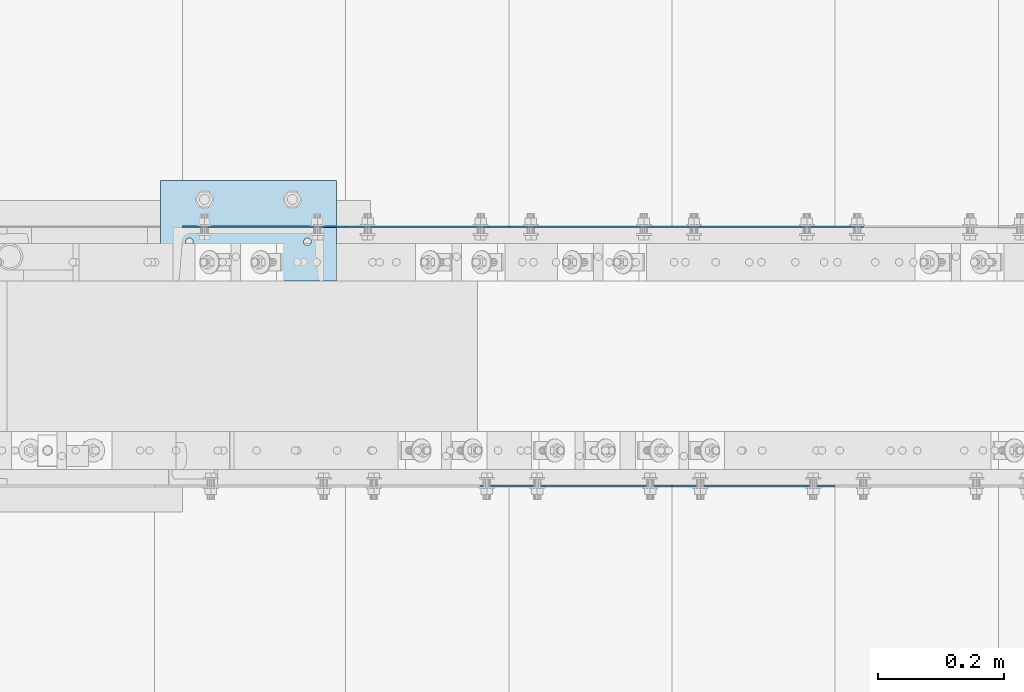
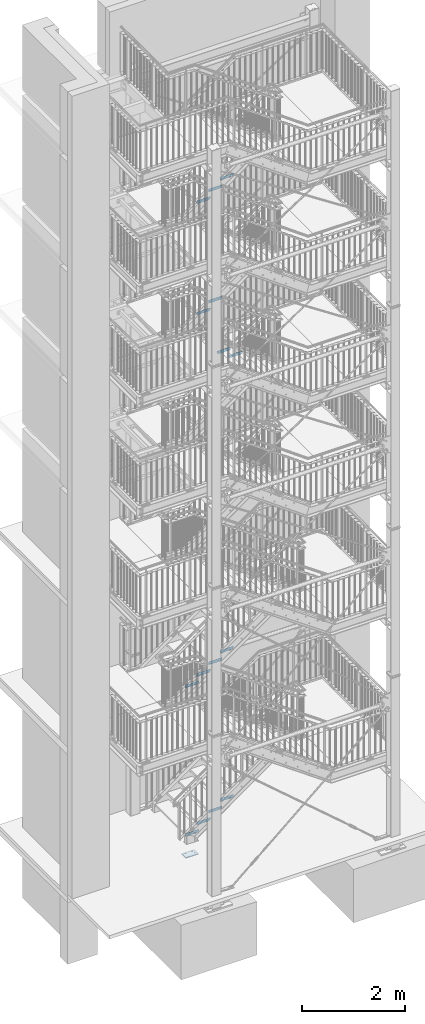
# One storey, part 173 of 831: 16 plates, 34 openings.
"""IFC2X3 building model written with IfcOpenShell, lengths in millimetres."""

from ifc_helpers import new_model, entity, si_unit, converted_unit, point, frame, frame_2d, origin, origin_with_axes, origin_2d_with_axis, place, context, project, spatial, polyline, circle_curve, line_curve, trimmed, segment, composite_curve, circle, outline, extrude, material, layer, layer_set, element, save


model = new_model("IFC2X3")

# Units and contexts
model_context = context("Model", 3, precision=1e-09, world=origin_with_axes())
ifc_project = project(units=[si_unit("LENGTHUNIT", "METRE", prefix="MILLI"), si_unit("AREAUNIT", "SQUARE_METRE"), si_unit("VOLUMEUNIT", "CUBIC_METRE"), converted_unit("PLANEANGLEUNIT", "DEGREE", entity("IfcPlaneAngleMeasure", 0.01745329), si_unit("PLANEANGLEUNIT", "RADIAN"), dimensions=[0, 0, 0, 0, 0, 0, 0])], contexts=[model_context])

# Site, building, storey
site_placement = place(None, origin_with_axes())
site = spatial("IfcSite", under=ifc_project, at=site_placement, Name="Site", CompositionType="ELEMENT")
building_placement = place(site_placement, origin_with_axes())
building = spatial("IfcBuilding", under=site, at=building_placement, Name="Struktur 1", CompositionType="ELEMENT")
storey_placement = place(building_placement, origin_with_axes())
storey = spatial("IfcBuildingStorey", under=building, at=storey_placement, Name="Default Storey", CompositionType="ELEMENT", Elevation=0.0)

# Plate, openings
ifc_material = material(Name="S235JR")
ifc_layer_1 = layer(ifc_material, 3.0)
ifc_layer_set_1 = layer_set([ifc_layer_1], Name="S235JR")
plate_1_placement = place(None, frame((5496.713402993, 6149.736971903, 12807.2142859), z_axis=(0.0, -1.0, 0.0), x_axis=(0.0, 0.0, -1.0)))
plate_1 = element("IfcPlate", 1, at=plate_1_placement, inside=storey, material=ifc_layer_set_1, Name="Grate_Step#3", ObjectType="Grate_Step#3", context=model_context, shape_type="SweptSolid", body=[
    extrude(outline(polyline([(0.0, 0.0), (70.0, 0.0), (70.0, 275.0), (40.0, 305.0), (0.0, 305.0), (0.0, 0.0)])), origin_with_axes(), (0.0, 0.0, 1.0), 3.0),
])
opening_1_placement = place(plate_1_placement, frame((55.0, 215.0, -0.5), z_axis=(0.0, 0.0, 1.0), x_axis=(0.0, 1.0, 0.0)))
element("IfcOpeningElement", 2, at=opening_1_placement, cuts=plate_1, ObjectType="Opening", context=model_context, shape_type="SweptSolid", body=[
    extrude(outline(composite_curve([segment(trimmed(line_curve((-9.5, -7.001), (1.0, 0.0), 19.0), [point((-9.5, -7.001))], [point((9.5, -7.001))], True, "CARTESIAN"), True, "CONTINUOUS"), segment(trimmed(circle_curve(frame_2d((9.5, 0.0), x_axis=(1.0, 0.0)), 7.001), [point((9.5, -7.001))], [point((9.5, 7.001))], True, "CARTESIAN"), True, "CONTINUOUS"), segment(trimmed(line_curve((9.5, 7.001), (-1.0, 0.0), 19.0), [point((9.5, 7.001))], [point((-9.5, 7.001))], True, "CARTESIAN"), True, "CONTINUOUS"), segment(trimmed(circle_curve(frame_2d((-9.5, 0.0), x_axis=(1.0, 0.0)), 7.001), [point((-9.5, 7.001))], [point((-9.5, -7.001))], True, "CARTESIAN"), True, "CONTINUOUS")], self_intersect=False)), origin(), (0.0, 0.0, 1.0), 4.0),
])
opening_2_placement = place(plate_1_placement, frame((55.0, 35.0, -0.5), z_axis=(0.0, 0.0, 1.0), x_axis=(0.0, 1.0, 0.0)))
element("IfcOpeningElement", 3, at=opening_2_placement, cuts=plate_1, ObjectType="Opening", context=model_context, shape_type="SweptSolid", body=[
    extrude(circle(Radius=7.001, at=origin_2d_with_axis()), origin(), (0.0, 0.0, 1.0), 4.0),
])

plate_2_placement = place(None, frame((5756.713402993, 6149.736971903, 12995.4285716), z_axis=(0.0, -1.0, 0.0), x_axis=(0.0, 0.0, -1.0)))
plate_2 = element("IfcPlate", 4, at=plate_2_placement, inside=storey, material=ifc_layer_set_1, Name="Grate_Step#10", ObjectType="Grate_Step#10", context=model_context, shape_type="SweptSolid", body=[
    extrude(outline(polyline([(0.0, 0.0), (70.0, 0.0), (70.0, 275.0), (40.0, 305.0), (0.0, 305.0), (0.0, 0.0)])), origin_with_axes(), (0.0, 0.0, 1.0), 3.0),
])
opening_3_placement = place(plate_2_placement, frame((55.0, 215.0, -0.5), z_axis=(0.0, 0.0, 1.0), x_axis=(0.0, 1.0, 0.0)))
element("IfcOpeningElement", 5, at=opening_3_placement, cuts=plate_2, ObjectType="Opening", context=model_context, shape_type="SweptSolid", body=[
    extrude(outline(composite_curve([segment(trimmed(line_curve((-9.5, -7.001), (1.0, 0.0), 19.0), [point((-9.5, -7.001))], [point((9.5, -7.001))], True, "CARTESIAN"), True, "CONTINUOUS"), segment(trimmed(circle_curve(frame_2d((9.5, 0.0), x_axis=(1.0, 0.0)), 7.001), [point((9.5, -7.001))], [point((9.5, 7.001))], True, "CARTESIAN"), True, "CONTINUOUS"), segment(trimmed(line_curve((9.5, 7.001), (-1.0, 0.0), 19.0), [point((9.5, 7.001))], [point((-9.5, 7.001))], True, "CARTESIAN"), True, "CONTINUOUS"), segment(trimmed(circle_curve(frame_2d((-9.5, 0.0), x_axis=(1.0, 0.0)), 7.001), [point((-9.5, 7.001))], [point((-9.5, -7.001))], True, "CARTESIAN"), True, "CONTINUOUS")], self_intersect=False)), origin(), (0.0, 0.0, 1.0), 4.0),
])
opening_4_placement = place(plate_2_placement, frame((55.0, 35.0, -0.5), z_axis=(0.0, 0.0, 1.0), x_axis=(0.0, 1.0, 0.0)))
element("IfcOpeningElement", 6, at=opening_4_placement, cuts=plate_2, ObjectType="Opening", context=model_context, shape_type="SweptSolid", body=[
    extrude(circle(Radius=7.001, at=origin_2d_with_axis()), origin(), (0.0, 0.0, 1.0), 4.0),
])

plate_3_placement = place(None, frame((6016.713402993, 6149.736971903, 15815.4285719), z_axis=(0.0, -1.0, 0.0), x_axis=(0.0, 0.0, -1.0)))
plate_3 = element("IfcPlate", 7, at=plate_3_placement, inside=storey, material=ifc_layer_set_1, Name="Grate_Step#17", ObjectType="Grate_Step#17", context=model_context, shape_type="SweptSolid", body=[
    extrude(outline(polyline([(0.0, 0.0), (70.0, 0.0), (70.0, 275.0), (40.0, 305.0), (0.0, 305.0), (0.0, 0.0)])), origin_with_axes(), (0.0, 0.0, 1.0), 3.0),
])
opening_5_placement = place(plate_3_placement, frame((55.0, 35.0, -0.5), z_axis=(0.0, 0.0, 1.0), x_axis=(0.0, 1.0, 0.0)))
element("IfcOpeningElement", 8, at=opening_5_placement, cuts=plate_3, ObjectType="Opening", context=model_context, shape_type="SweptSolid", body=[
    extrude(circle(Radius=7.001, at=origin_2d_with_axis()), origin(), (0.0, 0.0, 1.0), 4.0),
])
opening_6_placement = place(plate_3_placement, frame((55.0, 215.0, -0.5), z_axis=(0.0, 0.0, 1.0), x_axis=(0.0, 1.0, 0.0)))
element("IfcOpeningElement", 9, at=opening_6_placement, cuts=plate_3, ObjectType="Opening", context=model_context, shape_type="SweptSolid", body=[
    extrude(outline(composite_curve([segment(trimmed(line_curve((-9.5, -7.001), (1.0, 0.0), 19.0), [point((-9.5, -7.001))], [point((9.5, -7.001))], True, "CARTESIAN"), True, "CONTINUOUS"), segment(trimmed(circle_curve(frame_2d((9.5, 0.0), x_axis=(1.0, 0.0)), 7.001), [point((9.5, -7.001))], [point((9.5, 7.001))], True, "CARTESIAN"), True, "CONTINUOUS"), segment(trimmed(line_curve((9.5, 7.001), (-1.0, 0.0), 19.0), [point((9.5, 7.001))], [point((-9.5, 7.001))], True, "CARTESIAN"), True, "CONTINUOUS"), segment(trimmed(circle_curve(frame_2d((-9.5, 0.0), x_axis=(1.0, 0.0)), 7.001), [point((-9.5, 7.001))], [point((-9.5, -7.001))], True, "CARTESIAN"), True, "CONTINUOUS")], self_intersect=False)), origin(), (0.0, 0.0, 1.0), 4.0),
])

plate_4_placement = place(None, frame((5496.713402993, 6149.736971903, 15441.1428577), z_axis=(0.0, -1.0, 0.0), x_axis=(0.0, 0.0, -1.0)))
plate_4 = element("IfcPlate", 10, at=plate_4_placement, inside=storey, material=ifc_layer_set_1, Name="Grate_Step#3", ObjectType="Grate_Step#3", context=model_context, shape_type="SweptSolid", body=[
    extrude(outline(polyline([(0.0, 0.0), (70.0, 0.0), (70.0, 275.0), (40.0, 305.0), (0.0, 305.0), (0.0, 0.0)])), origin_with_axes(), (0.0, 0.0, 1.0), 3.0),
])
opening_7_placement = place(plate_4_placement, frame((55.0, 35.0, -0.5), z_axis=(0.0, 0.0, 1.0), x_axis=(0.0, 1.0, 0.0)))
element("IfcOpeningElement", 11, at=opening_7_placement, cuts=plate_4, ObjectType="Opening", context=model_context, shape_type="SweptSolid", body=[
    extrude(circle(Radius=7.001, at=origin_2d_with_axis()), origin(), (0.0, 0.0, 1.0), 4.0),
])
opening_8_placement = place(plate_4_placement, frame((55.0, 215.0, -0.5), z_axis=(0.0, 0.0, 1.0), x_axis=(0.0, 1.0, 0.0)))
element("IfcOpeningElement", 12, at=opening_8_placement, cuts=plate_4, ObjectType="Opening", context=model_context, shape_type="SweptSolid", body=[
    extrude(outline(composite_curve([segment(trimmed(line_curve((-9.5, -7.001), (1.0, 0.0), 19.0), [point((-9.5, -7.001))], [point((9.5, -7.001))], True, "CARTESIAN"), True, "CONTINUOUS"), segment(trimmed(circle_curve(frame_2d((9.5, 0.0), x_axis=(1.0, 0.0)), 7.001), [point((9.5, -7.001))], [point((9.5, 7.001))], True, "CARTESIAN"), True, "CONTINUOUS"), segment(trimmed(line_curve((9.5, 7.001), (-1.0, 0.0), 19.0), [point((9.5, 7.001))], [point((-9.5, 7.001))], True, "CARTESIAN"), True, "CONTINUOUS"), segment(trimmed(circle_curve(frame_2d((-9.5, 0.0), x_axis=(1.0, 0.0)), 7.001), [point((-9.5, 7.001))], [point((-9.5, -7.001))], True, "CARTESIAN"), True, "CONTINUOUS")], self_intersect=False)), origin(), (0.0, 0.0, 1.0), 4.0),
])

plate_5_placement = place(None, frame((5756.713402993, 6149.736971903, 15628.2857148), z_axis=(0.0, -1.0, 0.0), x_axis=(0.0, 0.0, -1.0)))
plate_5 = element("IfcPlate", 13, at=plate_5_placement, inside=storey, material=ifc_layer_set_1, Name="Grate_Step#10", ObjectType="Grate_Step#10", context=model_context, shape_type="SweptSolid", body=[
    extrude(outline(polyline([(0.0, 0.0), (70.0, 0.0), (70.0, 275.0), (40.0, 305.0), (0.0, 305.0), (0.0, 0.0)])), origin_with_axes(), (0.0, 0.0, 1.0), 3.0),
])
opening_9_placement = place(plate_5_placement, frame((55.0, 215.0, -0.5), z_axis=(0.0, 0.0, 1.0), x_axis=(0.0, 1.0, 0.0)))
element("IfcOpeningElement", 14, at=opening_9_placement, cuts=plate_5, ObjectType="Opening", context=model_context, shape_type="SweptSolid", body=[
    extrude(outline(composite_curve([segment(trimmed(line_curve((-9.5, -7.001), (1.0, 0.0), 19.0), [point((-9.5, -7.001))], [point((9.5, -7.001))], True, "CARTESIAN"), True, "CONTINUOUS"), segment(trimmed(circle_curve(frame_2d((9.5, 0.0), x_axis=(1.0, 0.0)), 7.001), [point((9.5, -7.001))], [point((9.5, 7.001))], True, "CARTESIAN"), True, "CONTINUOUS"), segment(trimmed(line_curve((9.5, 7.001), (-1.0, 0.0), 19.0), [point((9.5, 7.001))], [point((-9.5, 7.001))], True, "CARTESIAN"), True, "CONTINUOUS"), segment(trimmed(circle_curve(frame_2d((-9.5, 0.0), x_axis=(1.0, 0.0)), 7.001), [point((-9.5, 7.001))], [point((-9.5, -7.001))], True, "CARTESIAN"), True, "CONTINUOUS")], self_intersect=False)), origin(), (0.0, 0.0, 1.0), 4.0),
])
opening_10_placement = place(plate_5_placement, frame((55.0, 35.0, -0.5), z_axis=(0.0, 0.0, 1.0), x_axis=(0.0, 1.0, 0.0)))
element("IfcOpeningElement", 15, at=opening_10_placement, cuts=plate_5, ObjectType="Opening", context=model_context, shape_type="SweptSolid", body=[
    extrude(circle(Radius=7.001, at=origin_2d_with_axis()), origin(), (0.0, 0.0, 1.0), 4.0),
])

plate_6_placement = place(None, frame((5756.713402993, 6149.736971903, 925.3157888), z_axis=(0.0, -1.0, 0.0), x_axis=(0.0, 0.0, -1.0)))
plate_6 = element("IfcPlate", 16, at=plate_6_placement, inside=storey, material=ifc_layer_set_1, Name="Grate_Step#17", ObjectType="Grate_Step#17", context=model_context, shape_type="SweptSolid", body=[
    extrude(outline(polyline([(0.0, 0.0), (70.0, 0.0), (70.0, 275.0), (40.0, 305.0), (0.0, 305.0), (0.0, 0.0)])), origin_with_axes(), (0.0, 0.0, 1.0), 3.0),
])
opening_11_placement = place(plate_6_placement, frame((55.0, 35.0, -0.5), z_axis=(0.0, 0.0, 1.0), x_axis=(0.0, 1.0, 0.0)))
element("IfcOpeningElement", 17, at=opening_11_placement, cuts=plate_6, ObjectType="Opening", context=model_context, shape_type="SweptSolid", body=[
    extrude(circle(Radius=7.001, at=origin_2d_with_axis()), origin(), (0.0, 0.0, 1.0), 4.0),
])
opening_12_placement = place(plate_6_placement, frame((55.0, 215.0, -0.5), z_axis=(0.0, 0.0, 1.0), x_axis=(0.0, 1.0, 0.0)))
element("IfcOpeningElement", 18, at=opening_12_placement, cuts=plate_6, ObjectType="Opening", context=model_context, shape_type="SweptSolid", body=[
    extrude(outline(composite_curve([segment(trimmed(line_curve((-9.5, -7.001), (1.0, 0.0), 19.0), [point((-9.5, -7.001))], [point((9.5, -7.001))], True, "CARTESIAN"), True, "CONTINUOUS"), segment(trimmed(circle_curve(frame_2d((9.5, 0.0), x_axis=(1.0, 0.0)), 7.001), [point((9.5, -7.001))], [point((9.5, 7.001))], True, "CARTESIAN"), True, "CONTINUOUS"), segment(trimmed(line_curve((9.5, 7.001), (-1.0, 0.0), 19.0), [point((9.5, 7.001))], [point((-9.5, 7.001))], True, "CARTESIAN"), True, "CONTINUOUS"), segment(trimmed(circle_curve(frame_2d((-9.5, 0.0), x_axis=(1.0, 0.0)), 7.001), [point((-9.5, 7.001))], [point((-9.5, -7.001))], True, "CARTESIAN"), True, "CONTINUOUS")], self_intersect=False)), origin(), (0.0, 0.0, 1.0), 4.0),
])

plate_7_placement = place(None, frame((5496.713402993, 6149.736971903, 740.2105256), z_axis=(0.0, -1.0, 0.0), x_axis=(0.0, 0.0, -1.0)))
plate_7 = element("IfcPlate", 19, at=plate_7_placement, inside=storey, material=ifc_layer_set_1, Name="Grate_Step#10", ObjectType="Grate_Step#10", context=model_context, shape_type="SweptSolid", body=[
    extrude(outline(polyline([(0.0, 0.0), (70.0, 0.0), (70.0, 275.0), (40.0, 305.0), (0.0, 305.0), (0.0, 0.0)])), origin_with_axes(), (0.0, 0.0, 1.0), 3.0),
])
opening_13_placement = place(plate_7_placement, frame((55.0, 215.0, -0.5), z_axis=(0.0, 0.0, 1.0), x_axis=(0.0, 1.0, 0.0)))
element("IfcOpeningElement", 20, at=opening_13_placement, cuts=plate_7, ObjectType="Opening", context=model_context, shape_type="SweptSolid", body=[
    extrude(outline(composite_curve([segment(trimmed(line_curve((-9.5, -7.001), (1.0, 0.0), 19.0), [point((-9.5, -7.001))], [point((9.5, -7.001))], True, "CARTESIAN"), True, "CONTINUOUS"), segment(trimmed(circle_curve(frame_2d((9.5, 0.0), x_axis=(1.0, 0.0)), 7.001), [point((9.5, -7.001))], [point((9.5, 7.001))], True, "CARTESIAN"), True, "CONTINUOUS"), segment(trimmed(line_curve((9.5, 7.001), (-1.0, 0.0), 19.0), [point((9.5, 7.001))], [point((-9.5, 7.001))], True, "CARTESIAN"), True, "CONTINUOUS"), segment(trimmed(circle_curve(frame_2d((-9.5, 0.0), x_axis=(1.0, 0.0)), 7.001), [point((-9.5, 7.001))], [point((-9.5, -7.001))], True, "CARTESIAN"), True, "CONTINUOUS")], self_intersect=False)), origin(), (0.0, 0.0, 1.0), 4.0),
])
opening_14_placement = place(plate_7_placement, frame((55.0, 35.0, -0.5), z_axis=(0.0, 0.0, 1.0), x_axis=(0.0, 1.0, 0.0)))
element("IfcOpeningElement", 21, at=opening_14_placement, cuts=plate_7, ObjectType="Opening", context=model_context, shape_type="SweptSolid", body=[
    extrude(circle(Radius=7.001, at=origin_2d_with_axis()), origin(), (0.0, 0.0, 1.0), 4.0),
])

plate_8_placement = place(None, frame((5496.713402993, 6149.736971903, 4252.5789471), z_axis=(0.0, -1.0, 0.0), x_axis=(0.0, 0.0, -1.0)))
plate_8 = element("IfcPlate", 22, at=plate_8_placement, inside=storey, material=ifc_layer_set_1, Name="Grate_Step#10", ObjectType="Grate_Step#10", context=model_context, shape_type="SweptSolid", body=[
    extrude(outline(polyline([(0.0, 0.0), (70.0, 0.0), (70.0, 275.0), (40.0, 305.0), (0.0, 305.0), (0.0, 0.0)])), origin_with_axes(), (0.0, 0.0, 1.0), 3.0),
])
opening_15_placement = place(plate_8_placement, frame((55.0, 215.0, -0.5), z_axis=(0.0, 0.0, 1.0), x_axis=(0.0, 1.0, 0.0)))
element("IfcOpeningElement", 23, at=opening_15_placement, cuts=plate_8, ObjectType="Opening", context=model_context, shape_type="SweptSolid", body=[
    extrude(outline(composite_curve([segment(trimmed(line_curve((-9.5, -7.001), (1.0, 0.0), 19.0), [point((-9.5, -7.001))], [point((9.5, -7.001))], True, "CARTESIAN"), True, "CONTINUOUS"), segment(trimmed(circle_curve(frame_2d((9.5, 0.0), x_axis=(1.0, 0.0)), 7.001), [point((9.5, -7.001))], [point((9.5, 7.001))], True, "CARTESIAN"), True, "CONTINUOUS"), segment(trimmed(line_curve((9.5, 7.001), (-1.0, 0.0), 19.0), [point((9.5, 7.001))], [point((-9.5, 7.001))], True, "CARTESIAN"), True, "CONTINUOUS"), segment(trimmed(circle_curve(frame_2d((-9.5, 0.0), x_axis=(1.0, 0.0)), 7.001), [point((-9.5, 7.001))], [point((-9.5, -7.001))], True, "CARTESIAN"), True, "CONTINUOUS")], self_intersect=False)), origin(), (0.0, 0.0, 1.0), 4.0),
])
opening_16_placement = place(plate_8_placement, frame((55.0, 35.0, -0.5), z_axis=(0.0, 0.0, 1.0), x_axis=(0.0, 1.0, 0.0)))
element("IfcOpeningElement", 24, at=opening_16_placement, cuts=plate_8, ObjectType="Opening", context=model_context, shape_type="SweptSolid", body=[
    extrude(circle(Radius=7.001, at=origin_2d_with_axis()), origin(), (0.0, 0.0, 1.0), 4.0),
])

plate_9_placement = place(None, frame((6016.713402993, 6149.736971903, 4618.1578945), z_axis=(0.0, -1.0, 0.0), x_axis=(0.0, 0.0, -1.0)))
plate_9 = element("IfcPlate", 25, at=plate_9_placement, inside=storey, material=ifc_layer_set_1, Name="Grate_Step#24", ObjectType="Grate_Step#24", context=model_context, shape_type="SweptSolid", body=[
    extrude(outline(polyline([(0.0, 0.0), (70.0, 0.0), (70.0, 275.0), (40.0, 305.0), (0.0, 305.0), (0.0, 0.0)])), origin_with_axes(), (0.0, 0.0, 1.0), 3.0),
])
opening_17_placement = place(plate_9_placement, frame((55.0, 35.0, -0.5), z_axis=(0.0, 0.0, 1.0), x_axis=(0.0, 1.0, 0.0)))
element("IfcOpeningElement", 26, at=opening_17_placement, cuts=plate_9, ObjectType="Opening", context=model_context, shape_type="SweptSolid", body=[
    extrude(circle(Radius=7.001, at=origin_2d_with_axis()), origin(), (0.0, 0.0, 1.0), 4.0),
])
opening_18_placement = place(plate_9_placement, frame((55.0, 215.0, -0.5), z_axis=(0.0, 0.0, 1.0), x_axis=(0.0, 1.0, 0.0)))
element("IfcOpeningElement", 27, at=opening_18_placement, cuts=plate_9, ObjectType="Opening", context=model_context, shape_type="SweptSolid", body=[
    extrude(outline(composite_curve([segment(trimmed(line_curve((-9.5, -7.001), (1.0, 0.0), 19.0), [point((-9.5, -7.001))], [point((9.5, -7.001))], True, "CARTESIAN"), True, "CONTINUOUS"), segment(trimmed(circle_curve(frame_2d((9.5, 0.0), x_axis=(1.0, 0.0)), 7.001), [point((9.5, -7.001))], [point((9.5, 7.001))], True, "CARTESIAN"), True, "CONTINUOUS"), segment(trimmed(line_curve((9.5, 7.001), (-1.0, 0.0), 19.0), [point((9.5, 7.001))], [point((-9.5, 7.001))], True, "CARTESIAN"), True, "CONTINUOUS"), segment(trimmed(circle_curve(frame_2d((-9.5, 0.0), x_axis=(1.0, 0.0)), 7.001), [point((-9.5, 7.001))], [point((-9.5, -7.001))], True, "CARTESIAN"), True, "CONTINUOUS")], self_intersect=False)), origin(), (0.0, 0.0, 1.0), 4.0),
])

plate_10_placement = place(None, frame((5236.713402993, 6149.736971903, 4069.7894734), z_axis=(0.0, -1.0, 0.0), x_axis=(0.0, 0.0, -1.0)))
plate_10 = element("IfcPlate", 28, at=plate_10_placement, inside=storey, material=ifc_layer_set_1, Name="Grate_Step#3", ObjectType="Grate_Step#3", context=model_context, shape_type="SweptSolid", body=[
    extrude(outline(polyline([(0.0, 0.0), (70.0, 0.0), (70.0, 275.0), (40.0, 305.0), (0.0, 305.0), (0.0, 0.0)])), origin_with_axes(), (0.0, 0.0, 1.0), 3.0),
])
opening_19_placement = place(plate_10_placement, frame((55.0, 35.0, -0.5), z_axis=(0.0, 0.0, 1.0), x_axis=(0.0, 1.0, 0.0)))
element("IfcOpeningElement", 29, at=opening_19_placement, cuts=plate_10, ObjectType="Opening", context=model_context, shape_type="SweptSolid", body=[
    extrude(circle(Radius=7.001, at=origin_2d_with_axis()), origin(), (0.0, 0.0, 1.0), 4.0),
])
opening_20_placement = place(plate_10_placement, frame((55.0, 215.0, -0.5), z_axis=(0.0, 0.0, 1.0), x_axis=(0.0, 1.0, 0.0)))
element("IfcOpeningElement", 30, at=opening_20_placement, cuts=plate_10, ObjectType="Opening", context=model_context, shape_type="SweptSolid", body=[
    extrude(outline(composite_curve([segment(trimmed(line_curve((-9.5, -7.001), (1.0, 0.0), 19.0), [point((-9.5, -7.001))], [point((9.5, -7.001))], True, "CARTESIAN"), True, "CONTINUOUS"), segment(trimmed(circle_curve(frame_2d((9.5, 0.0), x_axis=(1.0, 0.0)), 7.001), [point((9.5, -7.001))], [point((9.5, 7.001))], True, "CARTESIAN"), True, "CONTINUOUS"), segment(trimmed(line_curve((9.5, 7.001), (-1.0, 0.0), 19.0), [point((9.5, 7.001))], [point((-9.5, 7.001))], True, "CARTESIAN"), True, "CONTINUOUS"), segment(trimmed(circle_curve(frame_2d((-9.5, 0.0), x_axis=(1.0, 0.0)), 7.001), [point((-9.5, 7.001))], [point((-9.5, -7.001))], True, "CARTESIAN"), True, "CONTINUOUS")], self_intersect=False)), origin(), (0.0, 0.0, 1.0), 4.0),
])

plate_11_placement = place(None, frame((6016.713402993, 6149.736971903, 1110.421052), z_axis=(0.0, -1.0, 0.0), x_axis=(0.0, 0.0, -1.0)))
plate_11 = element("IfcPlate", 31, at=plate_11_placement, inside=storey, material=ifc_layer_set_1, Name="Grate_Step#24", ObjectType="Grate_Step#24", context=model_context, shape_type="SweptSolid", body=[
    extrude(outline(polyline([(0.0, 0.0), (70.0, 0.0), (70.0, 275.0), (40.0, 305.0), (0.0, 305.0), (0.0, 0.0)])), origin_with_axes(), (0.0, 0.0, 1.0), 3.0),
])
opening_21_placement = place(plate_11_placement, frame((55.0, 215.0, -0.5), z_axis=(0.0, 0.0, 1.0), x_axis=(0.0, 1.0, 0.0)))
element("IfcOpeningElement", 32, at=opening_21_placement, cuts=plate_11, ObjectType="Opening", context=model_context, shape_type="SweptSolid", body=[
    extrude(outline(composite_curve([segment(trimmed(line_curve((-9.5, -7.001), (1.0, 0.0), 19.0), [point((-9.5, -7.001))], [point((9.5, -7.001))], True, "CARTESIAN"), True, "CONTINUOUS"), segment(trimmed(circle_curve(frame_2d((9.5, 0.0), x_axis=(1.0, 0.0)), 7.001), [point((9.5, -7.001))], [point((9.5, 7.001))], True, "CARTESIAN"), True, "CONTINUOUS"), segment(trimmed(line_curve((9.5, 7.001), (-1.0, 0.0), 19.0), [point((9.5, 7.001))], [point((-9.5, 7.001))], True, "CARTESIAN"), True, "CONTINUOUS"), segment(trimmed(circle_curve(frame_2d((-9.5, 0.0), x_axis=(1.0, 0.0)), 7.001), [point((-9.5, 7.001))], [point((-9.5, -7.001))], True, "CARTESIAN"), True, "CONTINUOUS")], self_intersect=False)), origin(), (0.0, 0.0, 1.0), 4.0),
])
opening_22_placement = place(plate_11_placement, frame((55.0, 35.0, -0.5), z_axis=(0.0, 0.0, 1.0), x_axis=(0.0, 1.0, 0.0)))
element("IfcOpeningElement", 33, at=opening_22_placement, cuts=plate_11, ObjectType="Opening", context=model_context, shape_type="SweptSolid", body=[
    extrude(circle(Radius=7.001, at=origin_2d_with_axis()), origin(), (0.0, 0.0, 1.0), 4.0),
])

plate_12_placement = place(None, frame((5236.713402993, 6149.736971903, 555.1052624), z_axis=(0.0, -1.0, 0.0), x_axis=(0.0, 0.0, -1.0)))
plate_12 = element("IfcPlate", 34, at=plate_12_placement, inside=storey, material=ifc_layer_set_1, Name="Grate_Step#3", ObjectType="Grate_Step#3", context=model_context, shape_type="SweptSolid", body=[
    extrude(outline(polyline([(0.0, 0.0), (70.0, 0.0), (70.0, 275.0), (40.0, 305.0), (0.0, 305.0), (0.0, 0.0)])), origin_with_axes(), (0.0, 0.0, 1.0), 3.0),
])
opening_23_placement = place(plate_12_placement, frame((55.0, 215.0, -0.5), z_axis=(0.0, 0.0, 1.0), x_axis=(0.0, 1.0, 0.0)))
element("IfcOpeningElement", 35, at=opening_23_placement, cuts=plate_12, ObjectType="Opening", context=model_context, shape_type="SweptSolid", body=[
    extrude(outline(composite_curve([segment(trimmed(line_curve((-9.5, -7.001), (1.0, 0.0), 19.0), [point((-9.5, -7.001))], [point((9.5, -7.001))], True, "CARTESIAN"), True, "CONTINUOUS"), segment(trimmed(circle_curve(frame_2d((9.5, 0.0), x_axis=(1.0, 0.0)), 7.001), [point((9.5, -7.001))], [point((9.5, 7.001))], True, "CARTESIAN"), True, "CONTINUOUS"), segment(trimmed(line_curve((9.5, 7.001), (-1.0, 0.0), 19.0), [point((9.5, 7.001))], [point((-9.5, 7.001))], True, "CARTESIAN"), True, "CONTINUOUS"), segment(trimmed(circle_curve(frame_2d((-9.5, 0.0), x_axis=(1.0, 0.0)), 7.001), [point((-9.5, 7.001))], [point((-9.5, -7.001))], True, "CARTESIAN"), True, "CONTINUOUS")], self_intersect=False)), origin(), (0.0, 0.0, 1.0), 4.0),
])
opening_24_placement = place(plate_12_placement, frame((55.0, 35.0, -0.5), z_axis=(0.0, 0.0, 1.0), x_axis=(0.0, 1.0, 0.0)))
element("IfcOpeningElement", 36, at=opening_24_placement, cuts=plate_12, ObjectType="Opening", context=model_context, shape_type="SweptSolid", body=[
    extrude(circle(Radius=7.001, at=origin_2d_with_axis()), origin(), (0.0, 0.0, 1.0), 4.0),
])

plate_13_placement = place(None, frame((5756.713402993, 6149.736971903, 4435.3684208), z_axis=(0.0, -1.0, 0.0), x_axis=(0.0, 0.0, -1.0)))
plate_13 = element("IfcPlate", 37, at=plate_13_placement, inside=storey, material=ifc_layer_set_1, Name="Grate_Step#17", ObjectType="Grate_Step#17", context=model_context, shape_type="SweptSolid", body=[
    extrude(outline(polyline([(0.0, 0.0), (70.0, 0.0), (70.0, 275.0), (40.0, 305.0), (0.0, 305.0), (0.0, 0.0)])), origin_with_axes(), (0.0, 0.0, 1.0), 3.0),
])
opening_25_placement = place(plate_13_placement, frame((55.0, 215.0, -0.5), z_axis=(0.0, 0.0, 1.0), x_axis=(0.0, 1.0, 0.0)))
element("IfcOpeningElement", 38, at=opening_25_placement, cuts=plate_13, ObjectType="Opening", context=model_context, shape_type="SweptSolid", body=[
    extrude(outline(composite_curve([segment(trimmed(line_curve((-9.5, -7.001), (1.0, 0.0), 19.0), [point((-9.5, -7.001))], [point((9.5, -7.001))], True, "CARTESIAN"), True, "CONTINUOUS"), segment(trimmed(circle_curve(frame_2d((9.5, 0.0), x_axis=(1.0, 0.0)), 7.001), [point((9.5, -7.001))], [point((9.5, 7.001))], True, "CARTESIAN"), True, "CONTINUOUS"), segment(trimmed(line_curve((9.5, 7.001), (-1.0, 0.0), 19.0), [point((9.5, 7.001))], [point((-9.5, 7.001))], True, "CARTESIAN"), True, "CONTINUOUS"), segment(trimmed(circle_curve(frame_2d((-9.5, 0.0), x_axis=(1.0, 0.0)), 7.001), [point((-9.5, 7.001))], [point((-9.5, -7.001))], True, "CARTESIAN"), True, "CONTINUOUS")], self_intersect=False)), origin(), (0.0, 0.0, 1.0), 4.0),
])
opening_26_placement = place(plate_13_placement, frame((55.0, 35.0, -0.5), z_axis=(0.0, 0.0, 1.0), x_axis=(0.0, 1.0, 0.0)))
element("IfcOpeningElement", 39, at=opening_26_placement, cuts=plate_13, ObjectType="Opening", context=model_context, shape_type="SweptSolid", body=[
    extrude(circle(Radius=7.001, at=origin_2d_with_axis()), origin(), (0.0, 0.0, 1.0), 4.0),
])

ifc_layer_2 = layer(ifc_material, 20.0)
ifc_layer_set_2 = layer_set([ifc_layer_2], Name="S235JR")
plate_14_placement = place(None, frame((5201.713402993, 6061.736971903, 50.0), z_axis=(0.0, 0.0, -1.0), x_axis=(0.0, 1.0, 0.0)))
plate_14 = element("IfcPlate", 40, at=plate_14_placement, inside=storey, material=ifc_layer_set_2, Name="Baseplate", ObjectType="Baseplate", context=model_context, shape_type="SweptSolid", body=[
    extrude(outline(polyline([(0.0, 0.0), (160.0, 0.0), (160.0, 280.0), (0.0, 280.0), (0.0, 0.0)])), origin_with_axes(), (0.0, 0.0, 1.0), 20.0),
])
opening_27_placement = place(plate_14_placement, frame((130.0, 140.0, 20.5), z_axis=(0.0, 0.0, -1.0), x_axis=(1.0, 0.0, 0.0)))
element("IfcOpeningElement", 41, at=opening_27_placement, cuts=plate_14, ObjectType="Opening", context=model_context, shape_type="SweptSolid", body=[
    extrude(circle(Radius=10.001, at=frame_2d((0.0, 70.0), x_axis=(1.0, 0.0))), origin(), (0.0, 0.0, 1.0), 21.0),
])
opening_28_placement = place(plate_14_placement, frame((130.0, 140.0, 20.5), z_axis=(0.0, 0.0, -1.0), x_axis=(1.0, 0.0, 0.0)))
element("IfcOpeningElement", 42, at=opening_28_placement, cuts=plate_14, ObjectType="Opening", context=model_context, shape_type="SweptSolid", body=[
    extrude(circle(Radius=10.001, at=frame_2d((0.0, -70.0), x_axis=(1.0, 0.0))), origin(), (0.0, 0.0, 1.0), 21.0),
])
opening_29_placement = place(plate_14_placement, frame((62.5, 234.0, 20.5), z_axis=(0.0, 0.0, -1.0), x_axis=(0.0, -1.0, 0.0)))
element("IfcOpeningElement", 43, at=opening_29_placement, cuts=plate_14, ObjectType="Opening", context=model_context, shape_type="SweptSolid", body=[
    extrude(circle(Radius=6.001, at=origin_2d_with_axis()), origin(), (0.0, 0.0, 1.0), 21.0),
])
opening_30_placement = place(plate_14_placement, frame((62.5, 46.0, 20.5), z_axis=(0.0, 0.0, -1.0), x_axis=(0.0, -1.0, 0.0)))
element("IfcOpeningElement", 44, at=opening_30_placement, cuts=plate_14, ObjectType="Opening", context=model_context, shape_type="SweptSolid", body=[
    extrude(circle(Radius=6.001, at=origin_2d_with_axis()), origin(), (0.0, 0.0, 1.0), 21.0),
])

plate_15_placement = place(None, frame((6276.713402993, 5733.736971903, 11868.4285716), z_axis=(0.0, 1.0, 0.0), x_axis=(0.0, 0.0, -1.0)))
plate_15 = element("IfcPlate", 45, at=plate_15_placement, inside=storey, material=ifc_layer_set_1, Name="Grate_Step#17", ObjectType="Grate_Step#17", context=model_context, shape_type="SweptSolid", body=[
    extrude(outline(polyline([(0.0, 0.0), (70.0, 0.0), (70.0, 275.0), (40.0, 305.0), (0.0, 305.0), (0.0, 0.0)])), origin_with_axes(), (0.0, 0.0, 1.0), 3.0),
])
opening_31_placement = place(plate_15_placement, frame((55.0, 35.0, -0.5), z_axis=(0.0, 0.0, 1.0), x_axis=(0.0, 1.0, 0.0)))
element("IfcOpeningElement", 46, at=opening_31_placement, cuts=plate_15, ObjectType="Opening", context=model_context, shape_type="SweptSolid", body=[
    extrude(circle(Radius=7.001, at=origin_2d_with_axis()), origin(), (0.0, 0.0, 1.0), 4.0),
])
opening_32_placement = place(plate_15_placement, frame((55.0, 215.0, -0.5), z_axis=(0.0, 0.0, 1.0), x_axis=(0.0, 1.0, 0.0)))
element("IfcOpeningElement", 47, at=opening_32_placement, cuts=plate_15, ObjectType="Opening", context=model_context, shape_type="SweptSolid", body=[
    extrude(outline(composite_curve([segment(trimmed(line_curve((-9.5, -7.001), (1.0, 0.0), 19.0), [point((-9.5, -7.001))], [point((9.5, -7.001))], True, "CARTESIAN"), True, "CONTINUOUS"), segment(trimmed(circle_curve(frame_2d((9.5, 0.0), x_axis=(1.0, 0.0)), 7.001), [point((9.5, -7.001))], [point((9.5, 7.001))], True, "CARTESIAN"), True, "CONTINUOUS"), segment(trimmed(line_curve((9.5, 7.001), (-1.0, 0.0), 19.0), [point((9.5, 7.001))], [point((-9.5, 7.001))], True, "CARTESIAN"), True, "CONTINUOUS"), segment(trimmed(circle_curve(frame_2d((-9.5, 0.0), x_axis=(1.0, 0.0)), 7.001), [point((-9.5, 7.001))], [point((-9.5, -7.001))], True, "CARTESIAN"), True, "CONTINUOUS")], self_intersect=False)), origin(), (0.0, 0.0, 1.0), 4.0),
])

plate_16_placement = place(None, frame((6016.713402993, 5733.736971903, 12056.0714287), z_axis=(0.0, 1.0, 0.0), x_axis=(0.0, 0.0, -1.0)))
plate_16 = element("IfcPlate", 48, at=plate_16_placement, inside=storey, material=ifc_layer_set_1, Name="Grate_Step#24", ObjectType="Grate_Step#24", context=model_context, shape_type="SweptSolid", body=[
    extrude(outline(polyline([(0.0, 0.0), (70.0, 0.0), (70.0, 275.0), (40.0, 305.0), (0.0, 305.0), (0.0, 0.0)])), origin_with_axes(), (0.0, 0.0, 1.0), 3.0),
])
opening_33_placement = place(plate_16_placement, frame((55.0, 215.0, -0.5), z_axis=(0.0, 0.0, 1.0), x_axis=(0.0, 1.0, 0.0)))
element("IfcOpeningElement", 49, at=opening_33_placement, cuts=plate_16, ObjectType="Opening", context=model_context, shape_type="SweptSolid", body=[
    extrude(outline(composite_curve([segment(trimmed(line_curve((-9.5, -7.001), (1.0, 0.0), 19.0), [point((-9.5, -7.001))], [point((9.5, -7.001))], True, "CARTESIAN"), True, "CONTINUOUS"), segment(trimmed(circle_curve(frame_2d((9.5, 0.0), x_axis=(1.0, 0.0)), 7.001), [point((9.5, -7.001))], [point((9.5, 7.001))], True, "CARTESIAN"), True, "CONTINUOUS"), segment(trimmed(line_curve((9.5, 7.001), (-1.0, 0.0), 19.0), [point((9.5, 7.001))], [point((-9.5, 7.001))], True, "CARTESIAN"), True, "CONTINUOUS"), segment(trimmed(circle_curve(frame_2d((-9.5, 0.0), x_axis=(1.0, 0.0)), 7.001), [point((-9.5, 7.001))], [point((-9.5, -7.001))], True, "CARTESIAN"), True, "CONTINUOUS")], self_intersect=False)), origin(), (0.0, 0.0, 1.0), 4.0),
])
opening_34_placement = place(plate_16_placement, frame((55.0, 35.0, -0.5), z_axis=(0.0, 0.0, 1.0), x_axis=(0.0, 1.0, 0.0)))
element("IfcOpeningElement", 50, at=opening_34_placement, cuts=plate_16, ObjectType="Opening", context=model_context, shape_type="SweptSolid", body=[
    extrude(circle(Radius=7.001, at=origin_2d_with_axis()), origin(), (0.0, 0.0, 1.0), 4.0),
])

save(model, "model.ifc")
